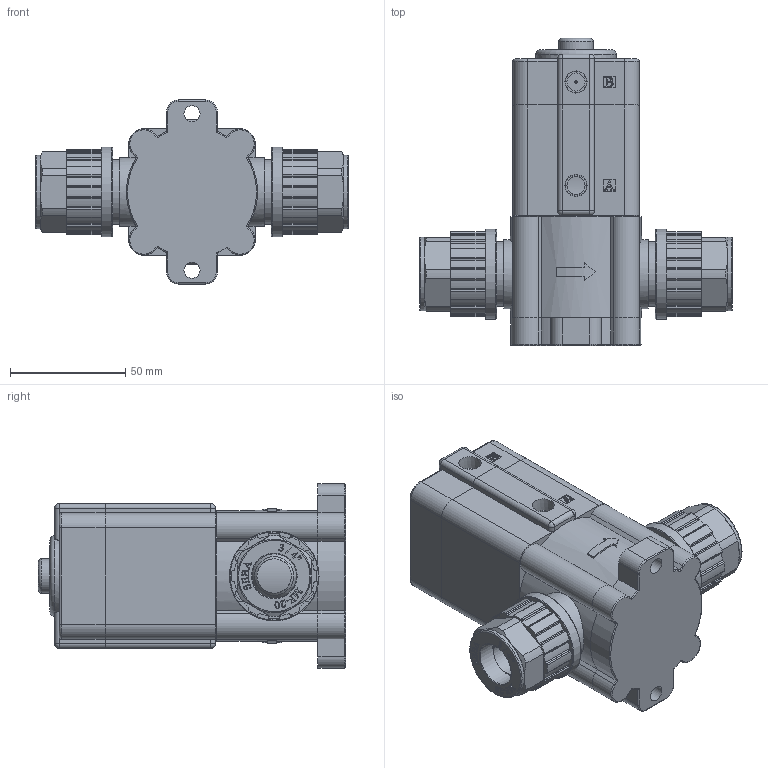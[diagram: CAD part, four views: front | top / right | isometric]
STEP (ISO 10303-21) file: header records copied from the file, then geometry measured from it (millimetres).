
FILE_DESCRIPTION(/* description */ (''),/* implementation_level */ '2;1');
FILE_NAME(/* name */ 'SANC-PA-MF020-A-0_stp.stp',/* time_stamp */ '2020-01-20T13:38:58+09:00',/* author */ (''),/* organization */ (''),/* preprocessor_version */ 'ST-DEVELOPER v11',/* originating_system */ 'SIEMENS PLM Software NX 7.5',/* authorisation */ '');
FILE_SCHEMA (('AUTOMOTIVE_DESIGN { 1 0 10303 214 1 1 1 1 }'));
Length unit declared in the file: millimetre
Products named in the file (7): PFA_Nut; Cover; base 34; body 34; Case4--35314; Case4--; SANC-PA-MF020-A-0_stp
Assembly tree (7 placements, depth 2):
  SANC-PA-MF020-A-0_stp
    Case4--
    Case4--35314
    body 34
    base 34
    Cover
    PFA_Nut  x2
Bounding box: 136.4 x 133.5 x 80 mm (x, y, z)
Volume: 442111.3 mm3; surface area: 95358.2 mm2
Topology: 7 solids, 9 shells, 1181 faces, 3180 edges, 2086 vertices
Faces by surface type: plane 537, cylinder 292, bspline 287, torus 31, cone 26, sphere 8
Full cylindrical faces by diameter (mm): 1 x1, 4.2 x1, 5 x1, 5.5 x8, 6 x8, 7 x2, 7.9 x2, 9 x4, 12 x1, 15 x2, 15.4 x1, 19.3 x2, 20 x1, 20.5 x2, 25.835 x2, 26.4 x2, 28 x2, 30 x2, 32 x2, 39 x2, 47 x1, 48 x2
Entity records: 29465 total; most frequent: CARTESIAN_POINT 11342, ORIENTED_EDGE 3870, DIRECTION 3302, EDGE_CURVE 1935, VERTEX_POINT 1305, LINE 1120, VECTOR 1120, AXIS2_PLACEMENT_3D 1091
